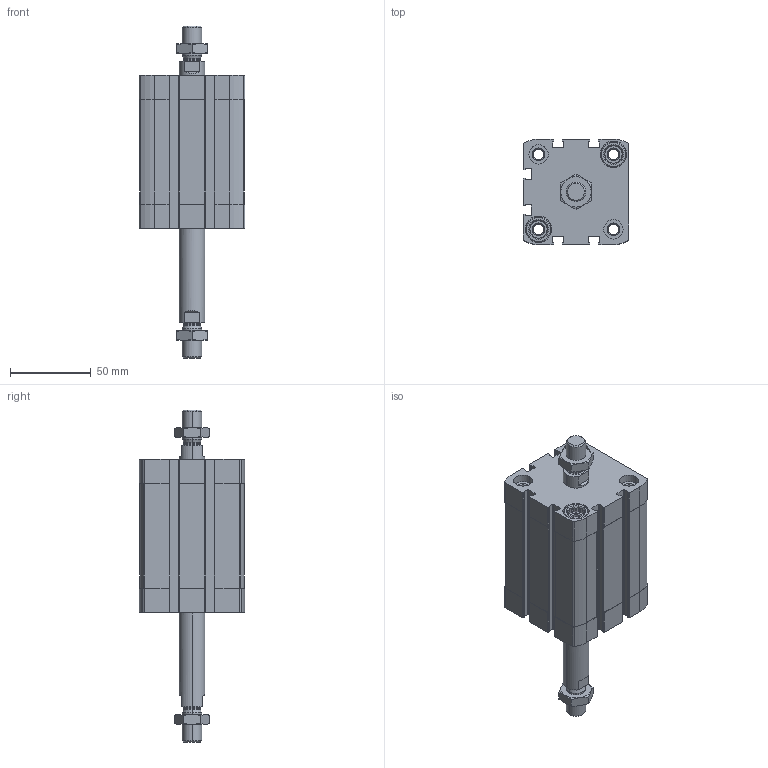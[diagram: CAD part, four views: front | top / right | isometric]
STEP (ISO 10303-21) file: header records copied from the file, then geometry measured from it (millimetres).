
FILE_DESCRIPTION (( 'STEP AP203' ), '1' );
FILE_NAME ('CCN50-50-P.STEP', '2020-06-22T18:58:00', ( '' ), ( '' ), 'SwSTEP 2.0', 'SolidWorks 2019', '' );
FILE_SCHEMA (( 'CONFIG_CONTROL_DESIGN' ));
Length unit declared in the file: millimetre
Products named in the file (1): CCN50-50-P
Bounding box: 65.5 x 65.5 x 206 mm (x, y, z)
Volume: 296238.5 mm3; surface area: 82533.5 mm2
Topology: 4 solids, 4 shells, 528 faces, 1392 edges, 904 vertices
Faces by surface type: plane 240, cylinder 220, cone 60, torus 8
Entity records: 17219 total; most frequent: CARTESIAN_POINT 3821, DIRECTION 2842, ORIENTED_EDGE 2784, EDGE_CURVE 1392, AXIS2_PLACEMENT_3D 1045, VERTEX_POINT 904, LINE 752, VECTOR 752
